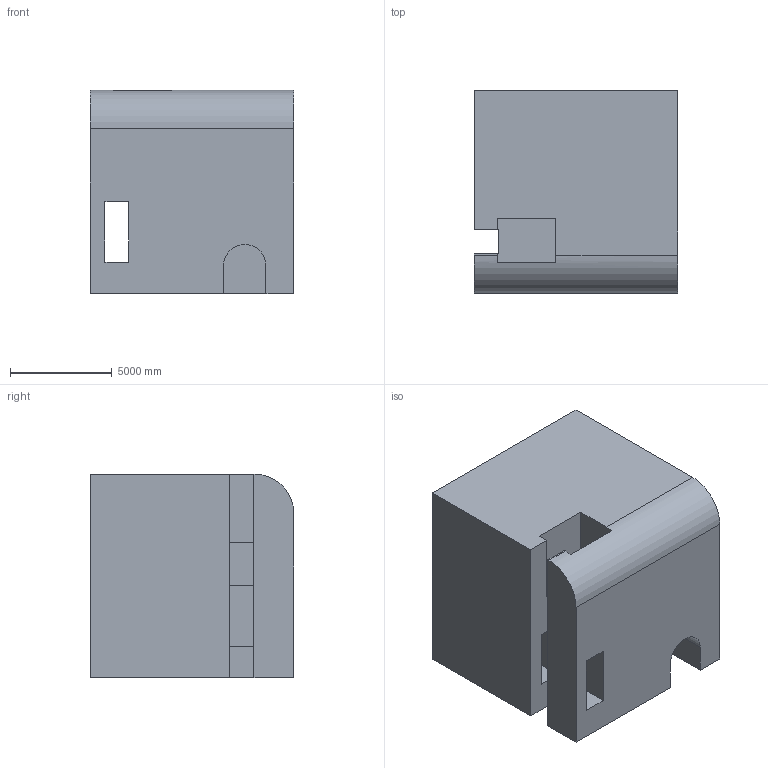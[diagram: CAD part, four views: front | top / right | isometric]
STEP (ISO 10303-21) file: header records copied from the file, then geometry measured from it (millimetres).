
FILE_DESCRIPTION (( 'STEP AP203' ), '1' );
FILE_NAME ('1417.STEP', '2022-08-18T14:21:12', ( 'user' ), ( '' ), 'SwSTEP 2.0', 'SolidWorks 2021', '' );
FILE_SCHEMA (( 'CONFIG_CONTROL_DESIGN' ));
Length unit declared in the file: centimetre
Products named in the file (1): 1417
Bounding box: 10000 x 10000 x 10000 mm (x, y, z)
Volume: 905339067708.1 mm3; surface area: 717881310.1 mm2
Topology: 1 solids, 1 shells, 28 faces, 84 edges, 56 vertices
Faces by surface type: plane 26, cylinder 2
Entity records: 1019 total; most frequent: CARTESIAN_POINT 169, ORIENTED_EDGE 168, DIRECTION 148, EDGE_CURVE 84, VECTOR 78, LINE 78, VERTEX_POINT 56, AXIS2_PLACEMENT_3D 35
